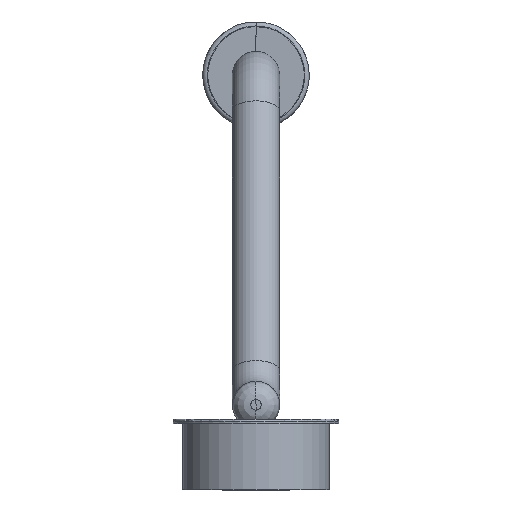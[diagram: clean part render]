
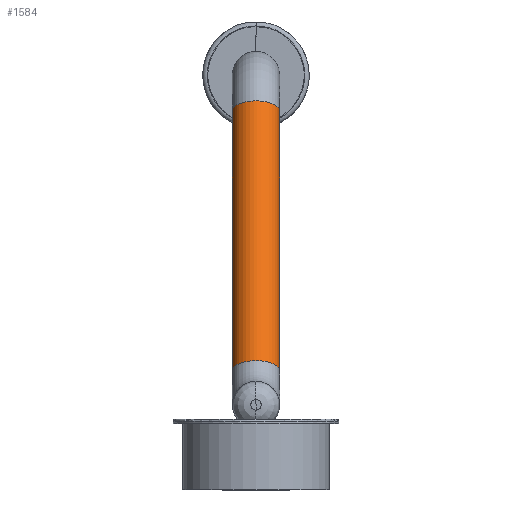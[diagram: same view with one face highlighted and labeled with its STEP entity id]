
A CAD part, front view. The second image highlights one B-rep face of the part: STEP entity #1584.
In plain terms, the highlighted cylindrical face has radius 10 mm (diameter 20 mm), a partial arc.
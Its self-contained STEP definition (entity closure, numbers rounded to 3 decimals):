
#77=B_SPLINE_CURVE_WITH_KNOTS('',3,(#2860,#2861,#2862,#2863,#2864,#2865,
#2866,#2867,#2868,#2869,#2870,#2871,#2872,#2873,#2874),.UNSPECIFIED.,.F.,
 .F.,(4,1,1,1,1,1,1,1,1,1,1,1,4),(0.,0.083,0.167,
0.25,0.333,0.417,0.5,0.583,0.667,
0.75,0.833,0.917,1.),.UNSPECIFIED.);
#79=B_SPLINE_CURVE_WITH_KNOTS('',3,(#2896,#2897,#2898,#2899,#2900,#2901,
#2902,#2903,#2904,#2905,#2906,#2907,#2908,#2909,#2910),.UNSPECIFIED.,.F.,
 .F.,(4,1,1,1,1,1,1,1,1,1,1,1,4),(0.,0.083,0.167,
0.25,0.333,0.417,0.5,0.583,0.667,
0.75,0.833,0.917,1.),.UNSPECIFIED.);
#243=FACE_OUTER_BOUND('',#342,.T.);
#342=EDGE_LOOP('',(#1264,#1265,#1266,#1267));
#490=LINE('',#2893,#587);
#491=LINE('',#2894,#588);
#587=VECTOR('',#1970,304.8);
#588=VECTOR('',#1971,304.8);
#705=VERTEX_POINT('',#2832);
#706=VERTEX_POINT('',#2833);
#707=VERTEX_POINT('',#2876);
#708=VERTEX_POINT('',#2877);
#905=EDGE_CURVE('',#706,#705,#77,.T.);
#907=EDGE_CURVE('',#705,#707,#490,.T.);
#908=EDGE_CURVE('',#708,#706,#491,.T.);
#909=EDGE_CURVE('',#708,#707,#79,.T.);
#1264=ORIENTED_EDGE('',*,*,#909,.F.);
#1265=ORIENTED_EDGE('',*,*,#908,.T.);
#1266=ORIENTED_EDGE('',*,*,#905,.T.);
#1267=ORIENTED_EDGE('',*,*,#907,.T.);
#1519=CYLINDRICAL_SURFACE('',#1709,10.);
#1584=ADVANCED_FACE('',(#243),#1519,.T.);
#1709=AXIS2_PLACEMENT_3D('',#2895,#1972,#1973);
#1970=DIRECTION('',(0.,-0.419,-0.908));
#1971=DIRECTION('',(0.,0.419,0.908));
#1972=DIRECTION('center_axis',(0.,-0.419,-0.908));
#1973=DIRECTION('ref_axis',(-1.,0.,0.));
#2832=CARTESIAN_POINT('',(-10.,109.472,160.378));
#2833=CARTESIAN_POINT('',(10.,109.472,160.378));
#2860=CARTESIAN_POINT('Ctrl Pts',(10.,109.472,160.378));
#2861=CARTESIAN_POINT('Ctrl Pts',(10.003,108.679,160.745));
#2862=CARTESIAN_POINT('Ctrl Pts',(9.769,107.096,161.476));
#2863=CARTESIAN_POINT('Ctrl Pts',(8.76,104.881,162.5));
#2864=CARTESIAN_POINT('Ctrl Pts',(7.152,102.979,163.379));
#2865=CARTESIAN_POINT('Ctrl Pts',(5.057,101.52,164.053));
#2866=CARTESIAN_POINT('Ctrl Pts',(2.618,100.603,164.477));
#2867=CARTESIAN_POINT('Ctrl Pts',(0.,100.29,
164.621));
#2868=CARTESIAN_POINT('Ctrl Pts',(-2.618,100.603,164.477));
#2869=CARTESIAN_POINT('Ctrl Pts',(-5.057,101.52,164.053));
#2870=CARTESIAN_POINT('Ctrl Pts',(-7.152,102.979,163.379));
#2871=CARTESIAN_POINT('Ctrl Pts',(-8.76,104.881,162.5));
#2872=CARTESIAN_POINT('Ctrl Pts',(-9.769,107.096,161.476));
#2873=CARTESIAN_POINT('Ctrl Pts',(-10.003,108.679,160.745));
#2874=CARTESIAN_POINT('Ctrl Pts',(-10.,109.472,160.378));
#2876=CARTESIAN_POINT('',(-10.,58.703,50.513));
#2877=CARTESIAN_POINT('',(10.,58.703,50.513));
#2893=CARTESIAN_POINT('',(-10.,109.472,160.378));
#2894=CARTESIAN_POINT('',(10.,58.703,50.513));
#2895=CARTESIAN_POINT('Origin',(0.,58.703,50.513));
#2896=CARTESIAN_POINT('Ctrl Pts',(10.,58.703,50.513));
#2897=CARTESIAN_POINT('Ctrl Pts',(10.003,57.91,50.879));
#2898=CARTESIAN_POINT('Ctrl Pts',(9.769,56.327,51.611));
#2899=CARTESIAN_POINT('Ctrl Pts',(8.76,54.112,52.635));
#2900=CARTESIAN_POINT('Ctrl Pts',(7.152,52.21,53.513));
#2901=CARTESIAN_POINT('Ctrl Pts',(5.057,50.751,54.188));
#2902=CARTESIAN_POINT('Ctrl Pts',(2.618,49.834,54.611));
#2903=CARTESIAN_POINT('Ctrl Pts',(0.,49.521,
54.756));
#2904=CARTESIAN_POINT('Ctrl Pts',(-2.618,49.834,54.611));
#2905=CARTESIAN_POINT('Ctrl Pts',(-5.057,50.751,54.188));
#2906=CARTESIAN_POINT('Ctrl Pts',(-7.152,52.21,53.513));
#2907=CARTESIAN_POINT('Ctrl Pts',(-8.76,54.112,52.635));
#2908=CARTESIAN_POINT('Ctrl Pts',(-9.769,56.327,51.611));
#2909=CARTESIAN_POINT('Ctrl Pts',(-10.003,57.91,50.879));
#2910=CARTESIAN_POINT('Ctrl Pts',(-10.,58.703,50.513));
